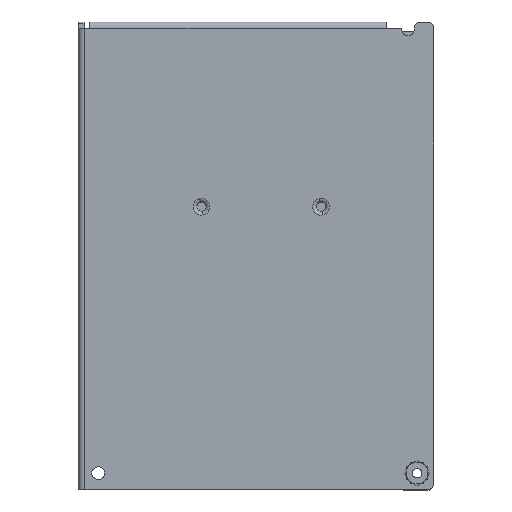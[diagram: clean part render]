
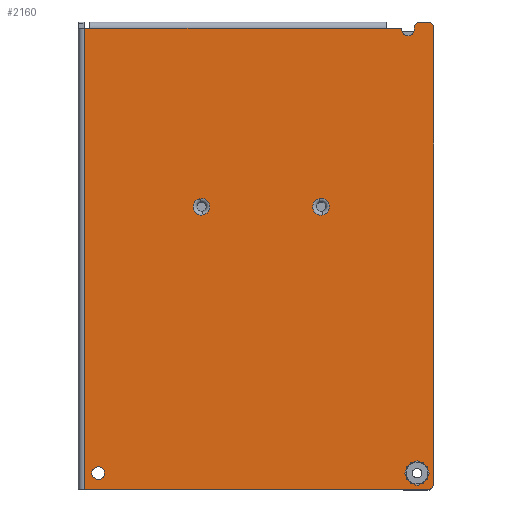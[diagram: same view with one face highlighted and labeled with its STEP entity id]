
A CAD part, front view. The second image highlights one B-rep face of the part: STEP entity #2160.
In plain terms, the highlighted planar face has unit normal (0, -1, 0).
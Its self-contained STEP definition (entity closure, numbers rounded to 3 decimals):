
#10=CARTESIAN_POINT('',(0.,0.,0.));
#20=DIRECTION('',(-0.,1.,0.));
#30=DIRECTION('',(1.,0.,0.));
#40=AXIS2_PLACEMENT_3D('',#10,#20,#30);
#50=PLANE('',#40);
#60=CARTESIAN_POINT('',(-7.,0.,-2.));
#70=DIRECTION('',(0.,-1.,0.));
#80=DIRECTION('',(-1.,0.,0.));
#90=AXIS2_PLACEMENT_3D('',#60,#70,#80);
#100=CIRCLE('',#90,1.75);
#110=CARTESIAN_POINT('',(-8.75,0.,-2.));
#120=VERTEX_POINT('',#110);
#130=CARTESIAN_POINT('',(-5.25,0.,-2.));
#140=VERTEX_POINT('',#130);
#150=EDGE_CURVE('',#120,#140,#100,.T.);
#160=ORIENTED_EDGE('',*,*,#150,.F.);
#170=CARTESIAN_POINT('',(-5.25,0.,-2.));
#180=DIRECTION('',(0.,0.,1.));
#190=VECTOR('',#180,1.);
#200=LINE('',#170,#190);
#210=CARTESIAN_POINT('',(-5.25,0.,-1.6));
#220=VERTEX_POINT('',#210);
#230=EDGE_CURVE('',#140,#220,#200,.T.);
#240=ORIENTED_EDGE('',*,*,#230,.F.);
#250=CARTESIAN_POINT('',(-3.65,0.,-1.6));
#260=DIRECTION('',(0.,1.,0.));
#270=DIRECTION('',(-1.,0.,0.));
#280=AXIS2_PLACEMENT_3D('',#250,#260,#270);
#290=CIRCLE('',#280,1.6);
#300=CARTESIAN_POINT('',(-3.65,0.,0.));
#310=VERTEX_POINT('',#300);
#320=EDGE_CURVE('',#220,#310,#290,.T.);
#330=ORIENTED_EDGE('',*,*,#320,.F.);
#340=CARTESIAN_POINT('',(-1.6,0.,0.));
#350=DIRECTION('',(-1.,0.,0.));
#360=VECTOR('',#350,1.);
#370=LINE('',#340,#360);
#380=CARTESIAN_POINT('',(-1.6,0.,0.));
#390=VERTEX_POINT('',#380);
#400=EDGE_CURVE('',#390,#310,#370,.T.);
#410=ORIENTED_EDGE('',*,*,#400,.T.);
#420=CARTESIAN_POINT('',(-1.6,0.,-1.6));
#430=DIRECTION('',(0.,1.,0.));
#440=DIRECTION('',(0.,0.,1.));
#450=AXIS2_PLACEMENT_3D('',#420,#430,#440);
#460=CIRCLE('',#450,1.6);
#470=CARTESIAN_POINT('',(0.,0.,-1.6));
#480=VERTEX_POINT('',#470);
#490=EDGE_CURVE('',#390,#480,#460,.T.);
#500=ORIENTED_EDGE('',*,*,#490,.F.);
#510=CARTESIAN_POINT('',(0.,0.,-127.4));
#520=DIRECTION('',(0.,0.,1.));
#530=VECTOR('',#520,1.);
#540=LINE('',#510,#530);
#550=CARTESIAN_POINT('',(0.,0.,-127.4));
#560=VERTEX_POINT('',#550);
#570=EDGE_CURVE('',#560,#480,#540,.T.);
#580=ORIENTED_EDGE('',*,*,#570,.T.);
#590=CARTESIAN_POINT('',(-1.6,0.,-127.4));
#600=DIRECTION('',(0.,1.,0.));
#610=DIRECTION('',(1.,0.,0.));
#620=AXIS2_PLACEMENT_3D('',#590,#600,#610);
#630=CIRCLE('',#620,1.6);
#640=CARTESIAN_POINT('',(-1.6,0.,-129.));
#650=VERTEX_POINT('',#640);
#660=EDGE_CURVE('',#560,#650,#630,.T.);
#670=ORIENTED_EDGE('',*,*,#660,.F.);
#680=CARTESIAN_POINT('',(-96.3,0.,-129.));
#690=DIRECTION('',(1.,0.,0.));
#700=VECTOR('',#690,1.);
#710=LINE('',#680,#700);
#720=CARTESIAN_POINT('',(-96.3,0.,-129.));
#730=VERTEX_POINT('',#720);
#740=EDGE_CURVE('',#730,#650,#710,.T.);
#750=ORIENTED_EDGE('',*,*,#740,.T.);
#760=CARTESIAN_POINT('',(-96.3,0.,-1.7));
#770=DIRECTION('',(0.,0.,-1.));
#780=VECTOR('',#770,1.);
#790=LINE('',#760,#780);
#800=CARTESIAN_POINT('',(-96.3,0.,-1.7));
#810=VERTEX_POINT('',#800);
#820=EDGE_CURVE('',#810,#730,#790,.T.);
#830=ORIENTED_EDGE('',*,*,#820,.T.);
#840=CARTESIAN_POINT('',(-94.8,0.,-1.7));
#850=DIRECTION('',(-1.,0.,0.));
#860=VECTOR('',#850,1.);
#870=LINE('',#840,#860);
#880=CARTESIAN_POINT('',(-94.8,0.,-1.7));
#890=VERTEX_POINT('',#880);
#900=EDGE_CURVE('',#890,#810,#870,.T.);
#910=ORIENTED_EDGE('',*,*,#900,.T.);
#920=CARTESIAN_POINT('',(-13.,0.,-1.7));
#930=DIRECTION('',(-1.,0.,0.));
#940=VECTOR('',#930,1.);
#950=LINE('',#920,#940);
#960=CARTESIAN_POINT('',(-13.,0.,-1.7));
#970=VERTEX_POINT('',#960);
#980=EDGE_CURVE('',#970,#890,#950,.T.);
#990=ORIENTED_EDGE('',*,*,#980,.T.);
#1000=CARTESIAN_POINT('',(-9.05,0.,-1.7));
#1010=DIRECTION('',(-1.,0.,0.));
#1020=VECTOR('',#1010,1.);
#1030=LINE('',#1000,#1020);
#1040=CARTESIAN_POINT('',(-9.05,0.,-1.7));
#1050=VERTEX_POINT('',#1040);
#1060=EDGE_CURVE('',#1050,#970,#1030,.T.);
#1070=ORIENTED_EDGE('',*,*,#1060,.T.);
#1080=CARTESIAN_POINT('',(-9.05,0.,-2.));
#1090=DIRECTION('',(0.,1.,0.));
#1100=DIRECTION('',(0.,0.,1.));
#1110=AXIS2_PLACEMENT_3D('',#1080,#1090,#1100);
#1120=CIRCLE('',#1110,0.3);
#1130=EDGE_CURVE('',#1050,#120,#1120,.T.);
#1140=ORIENTED_EDGE('',*,*,#1130,.F.);
#1150=EDGE_LOOP('',(#1140,#1070,#990,#910,#830,#750,#670,#580,#500,#410,
#330,#240,#160));
#1160=FACE_OUTER_BOUND('',#1150,.T.);
#1170=CARTESIAN_POINT('',(-92.5,0.,-124.5));
#1180=DIRECTION('',(0.,-1.,0.));
#1190=DIRECTION('',(0.,0.,1.));
#1200=AXIS2_PLACEMENT_3D('',#1170,#1180,#1190);
#1210=CIRCLE('',#1200,1.75);
#1220=CARTESIAN_POINT('',(-92.5,0.,-126.25));
#1230=VERTEX_POINT('',#1220);
#1240=CARTESIAN_POINT('',(-92.5,0.,-122.75));
#1250=VERTEX_POINT('',#1240);
#1260=EDGE_CURVE('',#1230,#1250,#1210,.T.);
#1270=ORIENTED_EDGE('',*,*,#1260,.F.);
#1280=EDGE_CURVE('',#1250,#1230,#1210,.T.);
#1290=ORIENTED_EDGE('',*,*,#1280,.F.);
#1300=EDGE_LOOP('',(#1290,#1270));
#1310=FACE_BOUND('',#1300,.T.);
#1320=CARTESIAN_POINT('',(-31.,0.,-51.));
#1330=DIRECTION('',(0.,-1.,0.));
#1340=DIRECTION('',(0.,0.,1.));
#1350=AXIS2_PLACEMENT_3D('',#1320,#1330,#1340);
#1360=CIRCLE('',#1350,2.3);
#1370=CARTESIAN_POINT('',(-31.,0.,-48.7));
#1380=VERTEX_POINT('',#1370);
#1390=CARTESIAN_POINT('',(-31.463,0.,-48.747));
#1400=VERTEX_POINT('',#1390);
#1410=EDGE_CURVE('',#1380,#1400,#1360,.T.);
#1420=ORIENTED_EDGE('',*,*,#1410,.F.);
#1430=CARTESIAN_POINT('',(-30.537,0.,-53.253));
#1440=VERTEX_POINT('',#1430);
#1450=EDGE_CURVE('',#1400,#1440,#1360,.T.);
#1460=ORIENTED_EDGE('',*,*,#1450,.F.);
#1470=EDGE_CURVE('',#1440,#1380,#1360,.T.);
#1480=ORIENTED_EDGE('',*,*,#1470,.F.);
#1490=EDGE_LOOP('',(#1480,#1460,#1420));
#1500=FACE_BOUND('',#1490,.T.);
#1510=CARTESIAN_POINT('',(-64.,0.,-51.));
#1520=DIRECTION('',(0.,-1.,0.));
#1530=DIRECTION('',(0.,0.,1.));
#1540=AXIS2_PLACEMENT_3D('',#1510,#1520,#1530);
#1550=CIRCLE('',#1540,2.3);
#1560=CARTESIAN_POINT('',(-64.463,0.,-48.747));
#1570=VERTEX_POINT('',#1560);
#1580=CARTESIAN_POINT('',(-63.537,0.,-53.253));
#1590=VERTEX_POINT('',#1580);
#1600=EDGE_CURVE('',#1570,#1590,#1550,.T.);
#1610=ORIENTED_EDGE('',*,*,#1600,.F.);
#1620=EDGE_CURVE('',#1590,#1570,#1550,.T.);
#1630=ORIENTED_EDGE('',*,*,#1620,.F.);
#1640=EDGE_LOOP('',(#1630,#1610));
#1650=FACE_BOUND('',#1640,.T.);
#1660=CARTESIAN_POINT('',(-7.964,0.,-124.5));
#1670=DIRECTION('',(0.5,0.,-0.866));
#1680=VECTOR('',#1670,1.);
#1690=LINE('',#1660,#1680);
#1700=CARTESIAN_POINT('',(-7.964,0.,-124.5));
#1710=VERTEX_POINT('',#1700);
#1720=CARTESIAN_POINT('',(-6.232,0.,-127.5));
#1730=VERTEX_POINT('',#1720);
#1740=EDGE_CURVE('',#1710,#1730,#1690,.T.);
#1750=ORIENTED_EDGE('',*,*,#1740,.F.);
#1760=CARTESIAN_POINT('',(-2.768,0.,-127.5));
#1770=DIRECTION('',(-1.,0.,0.));
#1780=VECTOR('',#1770,1.);
#1790=LINE('',#1760,#1780);
#1800=CARTESIAN_POINT('',(-2.768,0.,-127.5));
#1810=VERTEX_POINT('',#1800);
#1820=EDGE_CURVE('',#1810,#1730,#1790,.T.);
#1830=ORIENTED_EDGE('',*,*,#1820,.T.);
#1840=CARTESIAN_POINT('',(-2.768,0.,-127.5));
#1850=DIRECTION('',(0.5,0.,0.866));
#1860=VECTOR('',#1850,1.);
#1870=LINE('',#1840,#1860);
#1880=CARTESIAN_POINT('',(-1.036,0.,-124.5));
#1890=VERTEX_POINT('',#1880);
#1900=EDGE_CURVE('',#1810,#1890,#1870,.T.);
#1910=ORIENTED_EDGE('',*,*,#1900,.F.);
#1920=CARTESIAN_POINT('',(-1.036,0.,-124.5));
#1930=DIRECTION('',(-0.5,0.,0.866));
#1940=VECTOR('',#1930,1.);
#1950=LINE('',#1920,#1940);
#1960=CARTESIAN_POINT('',(-2.768,0.,-121.5));
#1970=VERTEX_POINT('',#1960);
#1980=EDGE_CURVE('',#1890,#1970,#1950,.T.);
#1990=ORIENTED_EDGE('',*,*,#1980,.F.);
#2000=CARTESIAN_POINT('',(-6.232,0.,-121.5));
#2010=DIRECTION('',(1.,0.,0.));
#2020=VECTOR('',#2010,1.);
#2030=LINE('',#2000,#2020);
#2040=CARTESIAN_POINT('',(-6.232,0.,-121.5));
#2050=VERTEX_POINT('',#2040);
#2060=EDGE_CURVE('',#2050,#1970,#2030,.T.);
#2070=ORIENTED_EDGE('',*,*,#2060,.T.);
#2080=CARTESIAN_POINT('',(-6.232,0.,-121.5));
#2090=DIRECTION('',(-0.5,0.,-0.866));
#2100=VECTOR('',#2090,1.);
#2110=LINE('',#2080,#2100);
#2120=EDGE_CURVE('',#2050,#1710,#2110,.T.);
#2130=ORIENTED_EDGE('',*,*,#2120,.F.);
#2140=EDGE_LOOP('',(#2130,#2070,#1990,#1910,#1830,#1750));
#2150=FACE_BOUND('',#2140,.T.);
#2160=ADVANCED_FACE('',(#1160,#1310,#1500,#1650,#2150),#50,.F.);
